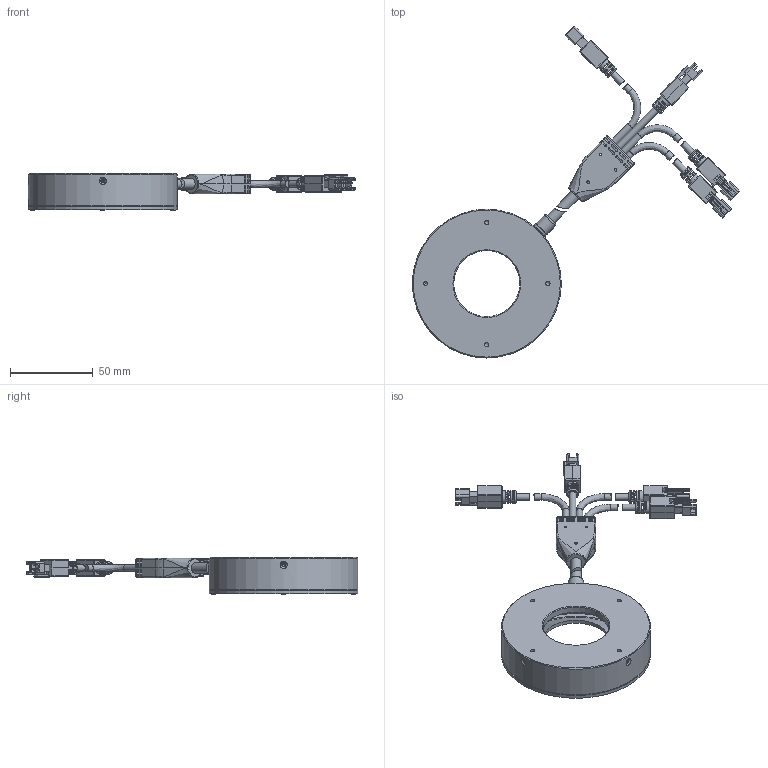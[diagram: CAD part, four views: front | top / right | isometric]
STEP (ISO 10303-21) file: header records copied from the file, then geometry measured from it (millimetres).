
FILE_DESCRIPTION (( 'STEP AP203' ), '1' );
FILE_NAME ('OPT-MSRI9030-X-V1.0U尨砩芞.STEP', '2025-02-12T02:35:20', ( '' ), ( '' ), 'SwSTEP 2.0', 'SolidWorks 2016', '' );
FILE_SCHEMA (( 'CONFIG_CONTROL_DESIGN' ));
Length unit declared in the file: millimetre
Products named in the file (1): OPT-MSRI9030-X-V1.0U尨砩芞
Bounding box: 197.96 x 200.86 x 22.5 mm (x, y, z)
Surface area: 49669.1 mm2 (no closed solid volume)
Topology: 0 solids, 33 shells, 1020 faces, 2836 edges, 1832 vertices
Faces by surface type: plane 554, cylinder 322, cone 69, bspline 58, torus 17
Full cylindrical faces by diameter (mm): 1.1 x4, 1.4 x4, 1.5 x3, 1.6 x4, 1.8 x4, 2 x4, 2.4 x4, 2.5 x4, 2.6 x4, 4.1 x10, 6.4 x2, 7.5 x4, 8.6 x1, 9.3 x1, 9.8 x1, 40 x2, 43.6 x1, 81.8 x1, 90 x2
Entity records: 39242 total; most frequent: CARTESIAN_POINT 15119, ORIENTED_EDGE 4957, DIRECTION 4495, EDGE_CURVE 2662, VERTEX_POINT 1782, LINE 1619, VECTOR 1619, AXIS2_PLACEMENT_3D 1438
